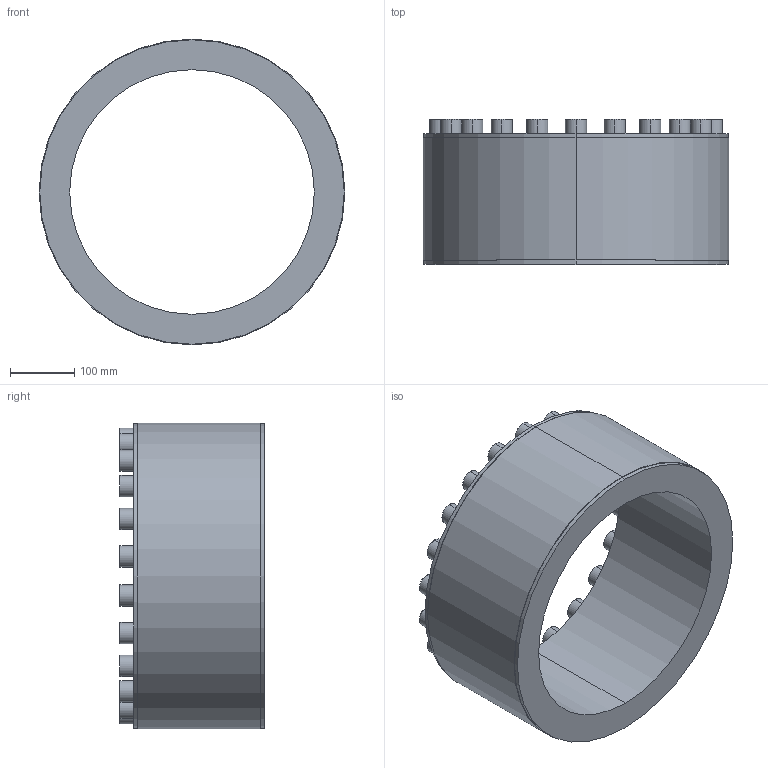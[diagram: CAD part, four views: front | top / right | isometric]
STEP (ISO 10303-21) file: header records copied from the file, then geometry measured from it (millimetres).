
FILE_DESCRIPTION (( 'STEP AP203' ), '1' );
FILE_NAME ('PL-D1 380-475.STEP', '2021-10-23T00:26:09', ( '' ), ( '' ), 'SwSTEP 2.0', 'SolidWorks 2018', '' );
FILE_SCHEMA (( 'CONFIG_CONTROL_DESIGN' ));
Length unit declared in the file: millimetre
Products named in the file (1): PL-D1 380-475
Bounding box: 475 x 225 x 475 mm (x, y, z)
Volume: 13284091.5 mm3; surface area: 736713.7 mm2
Topology: 1 solids, 1 shells, 276 faces, 640 edges, 412 vertices
Faces by surface type: plane 180, cylinder 52, torus 44
Entity records: 7885 total; most frequent: DIRECTION 1386, CARTESIAN_POINT 1329, ORIENTED_EDGE 1280, EDGE_CURVE 640, AXIS2_PLACEMENT_3D 469, VECTOR 448, LINE 448, VERTEX_POINT 412
